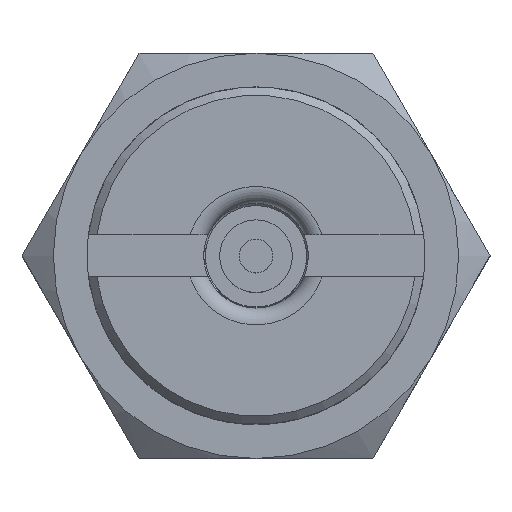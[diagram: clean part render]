
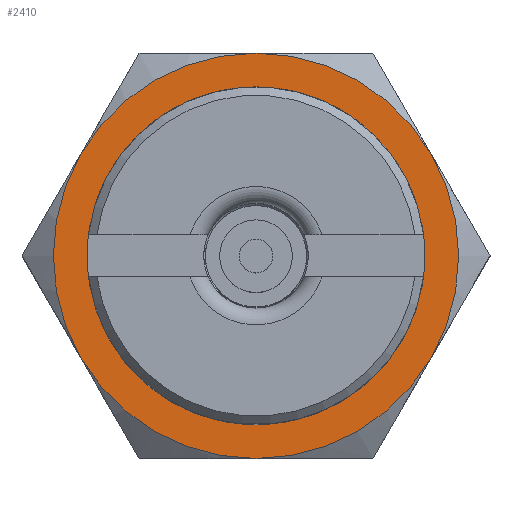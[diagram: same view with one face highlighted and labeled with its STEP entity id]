
A CAD part, top view. The second image highlights one B-rep face of the part: STEP entity #2410.
In plain terms, the highlighted planar face has unit normal (0, 0, 1).
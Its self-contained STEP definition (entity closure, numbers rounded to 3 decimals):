
#61 = DIRECTION ( 'NONE',  ( 1., 0., 0. ) ) ;
#208 = CIRCLE ( 'NONE', #2489, 12. ) ;
#217 = FACE_BOUND ( 'NONE', #2800, .T. ) ;
#240 = DIRECTION ( 'NONE',  ( -1., 0., 0. ) ) ;
#291 = DIRECTION ( 'NONE',  ( 0., 0., -1. ) ) ;
#352 = VERTEX_POINT ( 'NONE', #1570 ) ;
#354 = DIRECTION ( 'NONE',  ( -1., 0., 0. ) ) ;
#407 = EDGE_CURVE ( 'NONE', #1261, #1276, #2822, .T. ) ;
#486 = CARTESIAN_POINT ( 'NONE',  ( 0., 0., 10. ) ) ;
#507 = EDGE_CURVE ( 'NONE', #1689, #352, #1984, .T. ) ;
#531 = CARTESIAN_POINT ( 'NONE',  ( 0., 0., 10. ) ) ;
#538 = AXIS2_PLACEMENT_3D ( 'NONE', #901, #2260, #1390 ) ;
#544 = CARTESIAN_POINT ( 'NONE',  ( 0., 0., 10. ) ) ;
#546 = AXIS2_PLACEMENT_3D ( 'NONE', #1395, #291, #240 ) ;
#613 = CIRCLE ( 'NONE', #2731, 12. ) ;
#638 = CARTESIAN_POINT ( 'NONE',  ( 0., 0., 10. ) ) ;
#646 = CARTESIAN_POINT ( 'NONE',  ( -8., 0., 10. ) ) ;
#782 = EDGE_CURVE ( 'NONE', #2283, #2397, #2404, .T. ) ;
#818 = DIRECTION ( 'NONE',  ( 0., 0., -1. ) ) ;
#845 = AXIS2_PLACEMENT_3D ( 'NONE', #3297, #3585, #61 ) ;
#858 = DIRECTION ( 'NONE',  ( -1., 0., 0. ) ) ;
#877 = EDGE_CURVE ( 'NONE', #1276, #1261, #1735, .T. ) ;
#901 = CARTESIAN_POINT ( 'NONE',  ( 0., 0., 10. ) ) ;
#919 = CIRCLE ( 'NONE', #1338, 12. ) ;
#1088 = CARTESIAN_POINT ( 'NONE',  ( 6., 10.392, 10. ) ) ;
#1134 = AXIS2_PLACEMENT_3D ( 'NONE', #3164, #818, #858 ) ;
#1168 = ORIENTED_EDGE ( 'NONE', *, *, #407, .F. ) ;
#1180 = DIRECTION ( 'NONE',  ( 0., 0., -1. ) ) ;
#1261 = VERTEX_POINT ( 'NONE', #3548 ) ;
#1276 = VERTEX_POINT ( 'NONE', #646 ) ;
#1338 = AXIS2_PLACEMENT_3D ( 'NONE', #486, #1956, #2575 ) ;
#1358 = VERTEX_POINT ( 'NONE', #1789 ) ;
#1366 = DIRECTION ( 'NONE',  ( 1., 0., 0. ) ) ;
#1390 = DIRECTION ( 'NONE',  ( -1., 0., 0. ) ) ;
#1395 = CARTESIAN_POINT ( 'NONE',  ( 0., 0., 10. ) ) ;
#1499 = CARTESIAN_POINT ( 'NONE',  ( -12., 0., 10. ) ) ;
#1570 = CARTESIAN_POINT ( 'NONE',  ( -6., 10.392, 10. ) ) ;
#1576 = EDGE_CURVE ( 'NONE', #1358, #1689, #3073, .T. ) ;
#1606 = ORIENTED_EDGE ( 'NONE', *, *, #3405, .F. ) ;
#1663 = DIRECTION ( 'NONE',  ( 0., 0., 1. ) ) ;
#1689 = VERTEX_POINT ( 'NONE', #1499 ) ;
#1718 = DIRECTION ( 'NONE',  ( 0., 0., 1. ) ) ;
#1735 = CIRCLE ( 'NONE', #2219, 8. ) ;
#1789 = CARTESIAN_POINT ( 'NONE',  ( -6., -10.392, 10. ) ) ;
#1956 = DIRECTION ( 'NONE',  ( 0., 0., -1. ) ) ;
#1984 = CIRCLE ( 'NONE', #538, 12. ) ;
#2118 = ORIENTED_EDGE ( 'NONE', *, *, #507, .F. ) ;
#2176 = AXIS2_PLACEMENT_3D ( 'NONE', #2197, #1663, #1366 ) ;
#2197 = CARTESIAN_POINT ( 'NONE',  ( 0., 13.856, 10. ) ) ;
#2219 = AXIS2_PLACEMENT_3D ( 'NONE', #531, #1718, #3182 ) ;
#2260 = DIRECTION ( 'NONE',  ( 0., 0., -1. ) ) ;
#2283 = VERTEX_POINT ( 'NONE', #3335 ) ;
#2292 = ORIENTED_EDGE ( 'NONE', *, *, #877, .F. ) ;
#2397 = VERTEX_POINT ( 'NONE', #2505 ) ;
#2404 = CIRCLE ( 'NONE', #1134, 12. ) ;
#2410 = ADVANCED_FACE ( 'NONE', ( #3365, #217 ), #3422, .T. ) ;
#2489 = AXIS2_PLACEMENT_3D ( 'NONE', #638, #1180, #354 ) ;
#2505 = CARTESIAN_POINT ( 'NONE',  ( 6., -10.392, 10. ) ) ;
#2575 = DIRECTION ( 'NONE',  ( -1., 0., 0. ) ) ;
#2646 = ORIENTED_EDGE ( 'NONE', *, *, #1576, .F. ) ;
#2710 = ORIENTED_EDGE ( 'NONE', *, *, #3220, .F. ) ;
#2731 = AXIS2_PLACEMENT_3D ( 'NONE', #544, #3110, #3408 ) ;
#2800 = EDGE_LOOP ( 'NONE', ( #2292, #1168 ) ) ;
#2822 = CIRCLE ( 'NONE', #845, 8. ) ;
#2977 = ORIENTED_EDGE ( 'NONE', *, *, #782, .F. ) ;
#3073 = CIRCLE ( 'NONE', #546, 12. ) ;
#3110 = DIRECTION ( 'NONE',  ( 0., 0., -1. ) ) ;
#3132 = VERTEX_POINT ( 'NONE', #1088 ) ;
#3164 = CARTESIAN_POINT ( 'NONE',  ( 0., 0., 10. ) ) ;
#3181 = ORIENTED_EDGE ( 'NONE', *, *, #3615, .F. ) ;
#3182 = DIRECTION ( 'NONE',  ( 1., 0., 0. ) ) ;
#3220 = EDGE_CURVE ( 'NONE', #2397, #1358, #613, .T. ) ;
#3229 = EDGE_LOOP ( 'NONE', ( #2977, #1606, #3181, #2118, #2646, #2710 ) ) ;
#3297 = CARTESIAN_POINT ( 'NONE',  ( 0., 0., 10. ) ) ;
#3335 = CARTESIAN_POINT ( 'NONE',  ( 12., 0., 10. ) ) ;
#3365 = FACE_OUTER_BOUND ( 'NONE', #3229, .T. ) ;
#3405 = EDGE_CURVE ( 'NONE', #3132, #2283, #208, .T. ) ;
#3408 = DIRECTION ( 'NONE',  ( -1., 0., 0. ) ) ;
#3422 = PLANE ( 'NONE',  #2176 ) ;
#3548 = CARTESIAN_POINT ( 'NONE',  ( 8., 0., 10. ) ) ;
#3585 = DIRECTION ( 'NONE',  ( 0., 0., 1. ) ) ;
#3615 = EDGE_CURVE ( 'NONE', #352, #3132, #919, .T. ) ;
